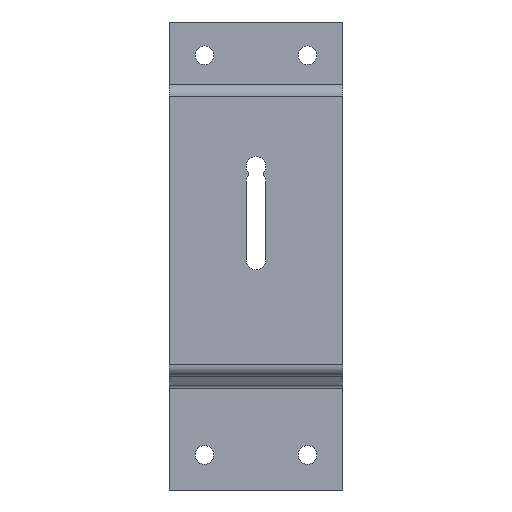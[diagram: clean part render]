
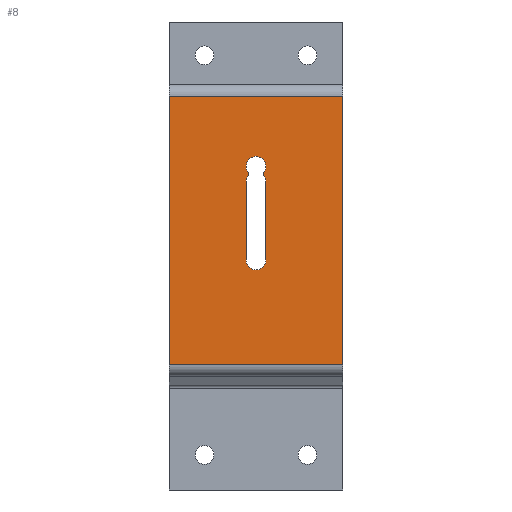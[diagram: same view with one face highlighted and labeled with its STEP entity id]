
A CAD part, front view. The second image highlights one B-rep face of the part: STEP entity #8.
In plain terms, the highlighted planar face has unit normal (0, -1, 0).
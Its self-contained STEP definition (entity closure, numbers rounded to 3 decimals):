
#8 = ADVANCED_FACE ( 'NONE', ( #1612, #1574 ), #1542, .T. ) ;
#21 = CARTESIAN_POINT ( 'NONE',  ( 0., 0., 114.791 ) ) ;
#44 = LINE ( 'NONE', #1295, #1354 ) ;
#53 = CARTESIAN_POINT ( 'NONE',  ( 37., 0., 44.791 ) ) ;
#62 = DIRECTION ( 'NONE',  ( 0., -1., 0. ) ) ;
#69 = VERTEX_POINT ( 'NONE', #919 ) ;
#72 = ORIENTED_EDGE ( 'NONE', *, *, #129, .T. ) ;
#89 = CARTESIAN_POINT ( 'NONE',  ( 32.85, 0., 81.576 ) ) ;
#129 = EDGE_CURVE ( 'NONE', #649, #798, #221, .T. ) ;
#137 = AXIS2_PLACEMENT_3D ( 'NONE', #1206, #563, #436 ) ;
#210 = DIRECTION ( 'NONE',  ( 0., -1., 0. ) ) ;
#221 = LINE ( 'NONE', #1187, #1537 ) ;
#227 = CARTESIAN_POINT ( 'NONE',  ( 37., 0., 84.791 ) ) ;
#255 = VECTOR ( 'NONE', #736, 1000. ) ;
#259 = DIRECTION ( 'NONE',  ( 0., 0., -1. ) ) ;
#282 = CIRCLE ( 'NONE', #401, 4.25 ) ;
#330 = CARTESIAN_POINT ( 'NONE',  ( 0., 0., 0. ) ) ;
#339 = DIRECTION ( 'NONE',  ( 0., 0., -1. ) ) ;
#356 = CIRCLE ( 'NONE', #872, 1. ) ;
#377 = CIRCLE ( 'NONE', #1638, 4.25 ) ;
#401 = AXIS2_PLACEMENT_3D ( 'NONE', #1474, #710, #1477 ) ;
#413 = VERTEX_POINT ( 'NONE', #494 ) ;
#431 = DIRECTION ( 'NONE',  ( 0., 0., -1. ) ) ;
#436 = DIRECTION ( 'NONE',  ( 0., 0., -1. ) ) ;
#454 = CARTESIAN_POINT ( 'NONE',  ( 37., 0., 40.541 ) ) ;
#457 = CIRCLE ( 'NONE', #995, 4.25 ) ;
#461 = ORIENTED_EDGE ( 'NONE', *, *, #1093, .F. ) ;
#494 = CARTESIAN_POINT ( 'NONE',  ( 74., 0., 114.791 ) ) ;
#501 = VERTEX_POINT ( 'NONE', #1647 ) ;
#514 = DIRECTION ( 'NONE',  ( 0., 0., -1. ) ) ;
#538 = DIRECTION ( 'NONE',  ( 1., 0., 0. ) ) ;
#563 = DIRECTION ( 'NONE',  ( 0., -1., 0. ) ) ;
#568 = DIRECTION ( 'NONE',  ( 0., 0., -1. ) ) ;
#578 = EDGE_CURVE ( 'NONE', #1576, #1426, #592, .T. ) ;
#592 = CIRCLE ( 'NONE', #1553, 1. ) ;
#598 = CARTESIAN_POINT ( 'NONE',  ( 33.64, 0., 80.963 ) ) ;
#642 = CARTESIAN_POINT ( 'NONE',  ( 41.15, 0., 81.576 ) ) ;
#649 = VERTEX_POINT ( 'NONE', #330 ) ;
#656 = AXIS2_PLACEMENT_3D ( 'NONE', #53, #1211, #431 ) ;
#676 = EDGE_CURVE ( 'NONE', #413, #798, #1067, .T. ) ;
#683 = LINE ( 'NONE', #1134, #255 ) ;
#700 = EDGE_LOOP ( 'NONE', ( #1200, #72, #1616, #1157 ) ) ;
#710 = DIRECTION ( 'NONE',  ( 0., -1., 0. ) ) ;
#736 = DIRECTION ( 'NONE',  ( 0., 0., -1. ) ) ;
#737 = CARTESIAN_POINT ( 'NONE',  ( 33.64, 0., 82.188 ) ) ;
#764 = CARTESIAN_POINT ( 'NONE',  ( 74., 0., 0. ) ) ;
#786 = VERTEX_POINT ( 'NONE', #1178 ) ;
#792 = EDGE_CURVE ( 'NONE', #1033, #649, #44, .T. ) ;
#798 = VERTEX_POINT ( 'NONE', #764 ) ;
#816 = CARTESIAN_POINT ( 'NONE',  ( 41.25, 0., 44.791 ) ) ;
#825 = CARTESIAN_POINT ( 'NONE',  ( 0., 0., 114.791 ) ) ;
#837 = EDGE_CURVE ( 'NONE', #1033, #413, #1319, .T. ) ;
#843 = CARTESIAN_POINT ( 'NONE',  ( 32.75, 0., 78.36 ) ) ;
#872 = AXIS2_PLACEMENT_3D ( 'NONE', #642, #1519, #259 ) ;
#877 = ORIENTED_EDGE ( 'NONE', *, *, #989, .F. ) ;
#879 = VERTEX_POINT ( 'NONE', #1066 ) ;
#919 = CARTESIAN_POINT ( 'NONE',  ( 41.25, 0., 78.36 ) ) ;
#927 = ORIENTED_EDGE ( 'NONE', *, *, #1011, .F. ) ;
#972 = CARTESIAN_POINT ( 'NONE',  ( 74., 0., 114.791 ) ) ;
#975 = VECTOR ( 'NONE', #1040, 1000. ) ;
#989 = EDGE_CURVE ( 'NONE', #1655, #1005, #1189, .T. ) ;
#995 = AXIS2_PLACEMENT_3D ( 'NONE', #1592, #62, #568 ) ;
#1005 = VERTEX_POINT ( 'NONE', #816 ) ;
#1011 = EDGE_CURVE ( 'NONE', #69, #879, #1646, .T. ) ;
#1033 = VERTEX_POINT ( 'NONE', #825 ) ;
#1040 = DIRECTION ( 'NONE',  ( 1., 0., 0. ) ) ;
#1066 = CARTESIAN_POINT ( 'NONE',  ( 40.36, 0., 80.963 ) ) ;
#1067 = LINE ( 'NONE', #972, #1526 ) ;
#1093 = EDGE_CURVE ( 'NONE', #501, #1426, #377, .T. ) ;
#1119 = DIRECTION ( 'NONE',  ( 0., -1., 0. ) ) ;
#1128 = VECTOR ( 'NONE', #1374, 1000. ) ;
#1133 = ORIENTED_EDGE ( 'NONE', *, *, #1141, .F. ) ;
#1134 = CARTESIAN_POINT ( 'NONE',  ( 32.75, 0., 78.36 ) ) ;
#1141 = EDGE_CURVE ( 'NONE', #1289, #786, #683, .T. ) ;
#1157 = ORIENTED_EDGE ( 'NONE', *, *, #837, .F. ) ;
#1178 = CARTESIAN_POINT ( 'NONE',  ( 32.75, 0., 44.791 ) ) ;
#1187 = CARTESIAN_POINT ( 'NONE',  ( 74., 0., 0. ) ) ;
#1189 = CIRCLE ( 'NONE', #656, 4.25 ) ;
#1195 = AXIS2_PLACEMENT_3D ( 'NONE', #21, #1302, #1432 ) ;
#1200 = ORIENTED_EDGE ( 'NONE', *, *, #792, .T. ) ;
#1206 = CARTESIAN_POINT ( 'NONE',  ( 37., 0., 78.36 ) ) ;
#1211 = DIRECTION ( 'NONE',  ( 0., -1., 0. ) ) ;
#1248 = EDGE_CURVE ( 'NONE', #1576, #1289, #457, .T. ) ;
#1271 = ORIENTED_EDGE ( 'NONE', *, *, #1329, .F. ) ;
#1287 = EDGE_LOOP ( 'NONE', ( #461, #1390, #927, #1522, #877, #1271, #1133, #1315, #1494 ) ) ;
#1289 = VERTEX_POINT ( 'NONE', #843 ) ;
#1295 = CARTESIAN_POINT ( 'NONE',  ( 0., 0., 114.791 ) ) ;
#1302 = DIRECTION ( 'NONE',  ( 0., -1., 0. ) ) ;
#1315 = ORIENTED_EDGE ( 'NONE', *, *, #1248, .F. ) ;
#1319 = LINE ( 'NONE', #1407, #975 ) ;
#1329 = EDGE_CURVE ( 'NONE', #786, #1655, #282, .T. ) ;
#1354 = VECTOR ( 'NONE', #514, 1000. ) ;
#1374 = DIRECTION ( 'NONE',  ( 0., 0., 1. ) ) ;
#1386 = CARTESIAN_POINT ( 'NONE',  ( 41.25, 0., 44.791 ) ) ;
#1390 = ORIENTED_EDGE ( 'NONE', *, *, #1508, .T. ) ;
#1407 = CARTESIAN_POINT ( 'NONE',  ( 0., 0., 114.791 ) ) ;
#1423 = EDGE_CURVE ( 'NONE', #1005, #69, #1456, .T. ) ;
#1426 = VERTEX_POINT ( 'NONE', #737 ) ;
#1432 = DIRECTION ( 'NONE',  ( 0., 0., -1. ) ) ;
#1456 = LINE ( 'NONE', #1386, #1128 ) ;
#1474 = CARTESIAN_POINT ( 'NONE',  ( 37., 0., 44.791 ) ) ;
#1476 = DIRECTION ( 'NONE',  ( 0., 0., -1. ) ) ;
#1477 = DIRECTION ( 'NONE',  ( 0., 0., -1. ) ) ;
#1494 = ORIENTED_EDGE ( 'NONE', *, *, #578, .T. ) ;
#1508 = EDGE_CURVE ( 'NONE', #501, #879, #356, .T. ) ;
#1519 = DIRECTION ( 'NONE',  ( 0., -1., 0. ) ) ;
#1522 = ORIENTED_EDGE ( 'NONE', *, *, #1423, .F. ) ;
#1526 = VECTOR ( 'NONE', #339, 1000. ) ;
#1537 = VECTOR ( 'NONE', #538, 1000. ) ;
#1542 = PLANE ( 'NONE',  #1195 ) ;
#1553 = AXIS2_PLACEMENT_3D ( 'NONE', #89, #210, #1476 ) ;
#1574 = FACE_OUTER_BOUND ( 'NONE', #700, .T. ) ;
#1576 = VERTEX_POINT ( 'NONE', #598 ) ;
#1592 = CARTESIAN_POINT ( 'NONE',  ( 37., 0., 78.36 ) ) ;
#1612 = FACE_BOUND ( 'NONE', #1287, .T. ) ;
#1616 = ORIENTED_EDGE ( 'NONE', *, *, #676, .F. ) ;
#1617 = DIRECTION ( 'NONE',  ( 0., 0., -1. ) ) ;
#1638 = AXIS2_PLACEMENT_3D ( 'NONE', #227, #1119, #1617 ) ;
#1646 = CIRCLE ( 'NONE', #137, 4.25 ) ;
#1647 = CARTESIAN_POINT ( 'NONE',  ( 40.36, 0., 82.188 ) ) ;
#1655 = VERTEX_POINT ( 'NONE', #454 ) ;
